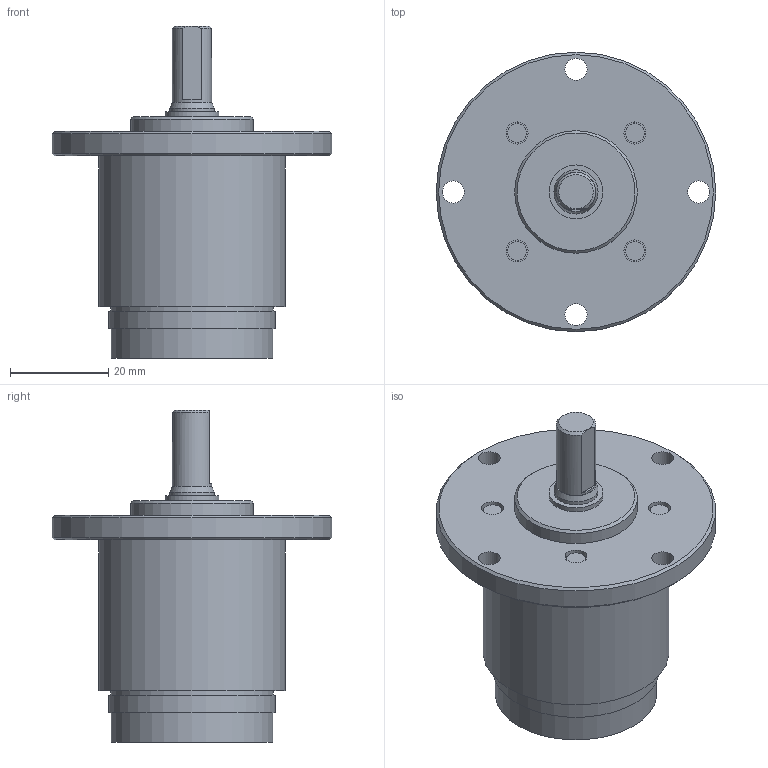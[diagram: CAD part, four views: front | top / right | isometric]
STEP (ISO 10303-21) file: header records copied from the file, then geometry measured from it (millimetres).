
FILE_DESCRIPTION(/* description */ (''),/* implementation_level */ '2;1');
FILE_NAME(/* name */ '38-1_4.stp',/* time_stamp */ '2016-09-15T17:40:52+02:00',/* author */ ('DR. FRITZ FAULHABER GmbH & Co. KG'),/* organization */ ('DR. FRITZ FAULHABER GmbH & Co. KG'),/* preprocessor_version */ 'ST-DEVELOPER v16',/* originating_system */ 'SIEMENS PLM Software NX 10.0',/* authorisation */ '');
FILE_SCHEMA (('AUTOMOTIVE_DESIGN { 1 0 10303 214 3 1 1 1 }'));
Length unit declared in the file: millimetre
Products named in the file (1): huge1AD871C9jgym
Bounding box: 57 x 57 x 67.7 mm (x, y, z)
Volume: 58174.8 mm3; surface area: 12024.4 mm2
Topology: 1 solids, 1 shells, 54 faces, 99 edges, 67 vertices
Faces by surface type: cylinder 25, plane 24, cone 5
Full cylindrical faces by diameter (mm): 3.8 x4, 4.5 x8, 8 x1, 9 x1, 11 x1, 11.8 x1, 12 x1, 25 x1, 26.9 x1, 27.57 x1, 33 x1, 33.2 x1, 34 x1, 38 x1, 57 x1
Entity records: 1190 total; most frequent: DIRECTION 225, CARTESIAN_POINT 183, ORIENTED_EDGE 122, EDGE_LOOP 111, AXIS2_PLACEMENT_3D 111, FACE_BOUND 102, EDGE_CURVE 61, VERTEX_POINT 58
